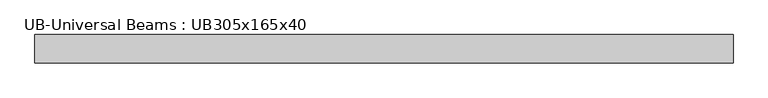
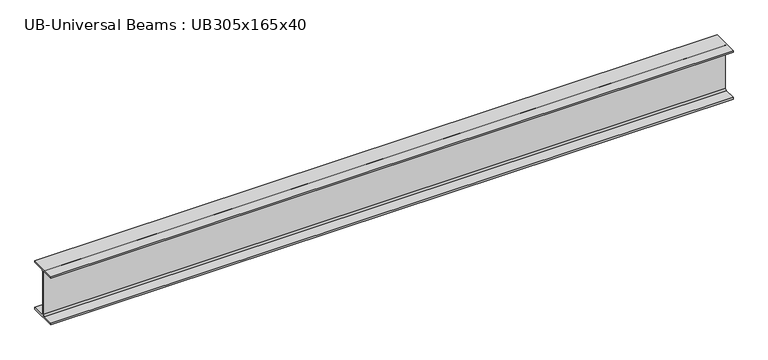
"""IFC4 building model written with IfcOpenShell, lengths in millimetres: beam geometry, UB-Universal Beams : UB305x165x40."""

import ifcopenshell
import ifcopenshell.guid

model = None  # the IFC model being written
_history = None  # IfcOwnerHistory: only IFC2X3 demands one
_inside = {}  # id of a spatial element -> (the spatial element, [elements in it])
_under = {}  # id of a project, library or spatial element -> (it, [spatial elements below it])
_declared = {}  # id of a project -> (the project, [libraries it declares])
_typed = {}  # id of a type object -> (the type object, [elements of that type])
_made_of = {}  # id of a material, layer set ... -> (it, [elements and type objects made of it])


def new_model(schema):
    """Start an empty IFC model of exactly this schema.

    Asked for "IFC4X3", IfcOpenShell would pick the latest addendum, in which some entities
    have other attributes; the version numbers below select the first issue.
    IFC2X3 requires an IfcOwnerHistory on every rooted entity: one is made here for all.
    """
    global model, _history
    if schema == "IFC4X3":
        model = ifcopenshell.file(schema_version=(4, 3, 0, 0))
    else:
        model = ifcopenshell.file(schema=schema)
    _inside.clear()
    _under.clear()
    _declared.clear()
    _typed.clear()
    _made_of.clear()
    _history = None
    if model.schema == "IFC2X3":
        org = make("IfcOrganization", Name="unknown")
        user = make(
            "IfcPersonAndOrganization",
            ThePerson=make("IfcPerson", FamilyName="unknown"),
            TheOrganization=org,
        )
        app = make(
            "IfcApplication",
            ApplicationDeveloper=org,
            Version="unknown",
            ApplicationFullName="unknown",
            ApplicationIdentifier="unknown",
        )
        _history = make(
            "IfcOwnerHistory",
            OwningUser=user,
            OwningApplication=app,
            ChangeAction="ADDED",
            CreationDate=0,
        )
    return model


def make(cls, **values):
    """One entity of the class cls with the attributes given. An attribute that is None is left unset."""
    return model.create_entity(
        cls, **{name: value for name, value in values.items() if value is not None}
    )


def rooted(cls, **values):
    """An entity with a GlobalId (a new one), such as an element, a storey or a relation."""
    return make(cls, GlobalId=ifcopenshell.guid.new(), OwnerHistory=_history, **values)


def si_unit(unit_type, name, prefix=None):
    """IfcSIUnit, for example si_unit("LENGTHUNIT", "METRE", prefix="MILLI")."""
    return make("IfcSIUnit", UnitType=unit_type, Prefix=prefix, Name=name)


def assignment(units):
    """IfcUnitAssignment: the units of a project."""
    return None if units is None else make("IfcUnitAssignment", Units=units)


def point(xyz):
    """IfcCartesianPoint."""
    return None if xyz is None else make("IfcCartesianPoint", Coordinates=xyz)


def direction(xyz):
    """IfcDirection."""
    return None if xyz is None else make("IfcDirection", DirectionRatios=xyz)


def frame(location, z_axis=None, x_axis=None):
    """IfcAxis2Placement3D, a coordinate frame: its origin and axes. An axis left out is left unset."""
    return make(
        "IfcAxis2Placement3D",
        Location=point(location),
        Axis=direction(z_axis),
        RefDirection=direction(x_axis),
    )


def frame_2d(location, x_axis=None):
    """IfcAxis2Placement2D, a coordinate frame in the plane: its origin and x axis."""
    return make(
        "IfcAxis2Placement2D", Location=point(location), RefDirection=direction(x_axis)
    )


def origin():
    """The frame at (0, 0, 0) with its axes left unset."""
    return frame((0.0, 0.0, 0.0))


def place(relative_to, where):
    """IfcLocalPlacement: puts the frame where relative to a parent placement (None: the world)."""
    return make(
        "IfcLocalPlacement", PlacementRelTo=relative_to, RelativePlacement=where
    )


def context(
    kind, dimensions, precision=None, world=None, true_north=None, identifier=None
):
    """IfcGeometricRepresentationContext, for example the 3D "Model" context."""
    return make(
        "IfcGeometricRepresentationContext",
        ContextIdentifier=identifier,
        ContextType=kind,
        CoordinateSpaceDimension=dimensions,
        Precision=precision,
        WorldCoordinateSystem=world,
        TrueNorth=true_north,
    )


def project(units=None, contexts=None):
    """IfcProject with its units and contexts."""
    return rooted(
        "IfcProject",
        Name="project",
        RepresentationContexts=contexts,
        UnitsInContext=assignment(units),
    )


def spatial(cls, under=None, at=None, **own):
    """A site, building, storey or space (cls), placed at a placement, below another one or the project."""
    s = rooted(cls, ObjectPlacement=at, **own)
    if under is not None:
        _under.setdefault(under.id(), (under, []))[1].append(s)
    return s


def polyline(points):
    """IfcPolyline through the points."""
    return make("IfcPolyline", Points=[point(p) for p in points])


def circle_curve(where, radius):
    """IfcCircle in the frame where."""
    return make("IfcCircle", Position=where, Radius=radius)


def trimmed(basis, trim1, trim2, sense, master):
    """IfcTrimmedCurve: the piece of a basis curve between two trims."""
    return make(
        "IfcTrimmedCurve",
        BasisCurve=basis,
        Trim1=trim1,
        Trim2=trim2,
        SenseAgreement=sense,
        MasterRepresentation=master,
    )


def segment(curve, same_sense, transition):
    """IfcCompositeCurveSegment."""
    return make(
        "IfcCompositeCurveSegment",
        Transition=transition,
        SameSense=same_sense,
        ParentCurve=curve,
    )


def composite_curve(segments, self_intersect=None):
    """IfcCompositeCurve: segments joined end to end."""
    return make("IfcCompositeCurve", Segments=segments, SelfIntersect=self_intersect)


def outline(outer, holes=None, kind="AREA"):
    """IfcArbitraryClosedProfileDef: a profile drawn as a closed curve; with holes, ...WithVoids."""
    if holes is None:
        return make("IfcArbitraryClosedProfileDef", ProfileType=kind, OuterCurve=outer)
    return make(
        "IfcArbitraryProfileDefWithVoids",
        ProfileType=kind,
        OuterCurve=outer,
        InnerCurves=holes,
    )


def extrude(swept, where, along, depth):
    """IfcExtrudedAreaSolid: the profile swept, set in the frame where, extruded along a direction by depth."""
    return make(
        "IfcExtrudedAreaSolid",
        SweptArea=swept,
        Position=where,
        ExtrudedDirection=direction(along),
        Depth=depth,
    )


def shape(context_of_items, identifier, shape_type, items):
    """IfcShapeRepresentation: the items that make up one representation, for example the "Body"."""
    return make(
        "IfcShapeRepresentation",
        ContextOfItems=context_of_items,
        RepresentationIdentifier=identifier,
        RepresentationType=shape_type,
        Items=items,
    )


def source(mapping_origin, context_of_items, identifier, shape_type, items):
    """IfcRepresentationMap: a shape defined once, which mapped items show again and again."""
    return make(
        "IfcRepresentationMap",
        MappingOrigin=mapping_origin,
        MappedRepresentation=shape(context_of_items, identifier, shape_type, items),
    )


def transform(
    local_origin,
    x_axis=None,
    y_axis=None,
    z_axis=None,
    scale=None,
    scale2=None,
    scale3=None,
    uniform=True,
):
    """IfcCartesianTransformationOperator3D, or its non-uniform kind. x_axis, y_axis, z_axis: its Axis1, 2, 3."""
    if uniform:
        return make(
            "IfcCartesianTransformationOperator3D",
            Axis1=direction(x_axis),
            Axis2=direction(y_axis),
            LocalOrigin=point(local_origin),
            Scale=scale,
            Axis3=direction(z_axis),
        )
    return make(
        "IfcCartesianTransformationOperator3DnonUniform",
        Axis1=direction(x_axis),
        Axis2=direction(y_axis),
        LocalOrigin=point(local_origin),
        Scale=scale,
        Axis3=direction(z_axis),
        Scale2=scale2,
        Scale3=scale3,
    )


def mapped(mapping_source, mapping_target):
    """IfcMappedItem: shows the shape of a source again, moved by a transform."""
    return make(
        "IfcMappedItem", MappingSource=mapping_source, MappingTarget=mapping_target
    )


def made_of(thing, what):
    """Note that an element or type object is made of a material, layer set ...; save() writes the relation."""
    if what is not None:
        _made_of.setdefault(what.id(), (what, []))[1].append(thing)
    return thing


def element(
    cls,
    number,
    at=None,
    inside=None,
    cuts=None,
    type_object=None,
    material=None,
    context=None,
    identifier="Body",
    shape_type=None,
    held_by="IfcProductDefinitionShape",
    body=None,
    shapes=None,
    **own,
):
    """One element of the class cls, such as IfcWall. Its Tag is "e" and its number.

    at: its placement. inside: the storey or other place that contains it. cuts: it is an
    opening in that element (IfcRelVoidsElement). A single representation is given by context,
    identifier, shape_type and body (its items); several are given by shapes. held_by: the class
    of the entity that holds the representations. save() writes the other relations.
    """
    e = rooted(cls, Tag="e%d" % number, ObjectPlacement=at, **own)
    if body is not None:
        shapes = [shape(context, identifier, shape_type, body)]
    if shapes is not None:
        e.Representation = make(held_by, Representations=shapes)
    if inside is not None:
        _inside.setdefault(inside.id(), (inside, []))[1].append(e)
    if cuts is not None:
        rooted(
            "IfcRelVoidsElement", RelatingBuildingElement=cuts, RelatedOpeningElement=e
        )
    if type_object is not None:
        _typed.setdefault(type_object.id(), (type_object, []))[1].append(e)
    return made_of(e, material)


def aggregate(whole, parts):
    """IfcRelAggregates: a whole, such as a stair, and the parts it consists of."""
    return rooted("IfcRelAggregates", RelatingObject=whole, RelatedObjects=parts)


def save(model, path):
    """Write the relations noted so far, then the file.

    IfcRelAggregates (storeys below a building ...), IfcRelContainedInSpatialStructure (elements
    in a storey), IfcRelDefinesByType, IfcRelAssociatesMaterial and IfcRelDeclares: one each for
    every whole, place, type object, material and project.
    """
    for whole, parts in _under.values():
        aggregate(whole, parts)
    for where, things in _inside.values():
        rooted(
            "IfcRelContainedInSpatialStructure",
            RelatedElements=things,
            RelatingStructure=where,
        )
    for kind, things in _typed.values():
        rooted("IfcRelDefinesByType", RelatedObjects=things, RelatingType=kind)
    for what, things in _made_of.values():
        rooted("IfcRelAssociatesMaterial", RelatedObjects=things, RelatingMaterial=what)
    for by, libraries in _declared.values():
        rooted("IfcRelDeclares", RelatingContext=by, RelatedDefinitions=libraries)
    model.write(path)


def ub_universal_beams_ub305x165x40_7c043438(model_context):
    return source(origin(), model_context, "Body", "SweptSolid", [
        extrude(outline(composite_curve([segment(polyline([(82.5, -141.5), (82.5, -151.7), (-82.5, -151.7), (-82.5, -141.5), (-11.9, -141.5)]), True, "CONTINUOUS"), segment(trimmed(circle_curve(frame_2d((-11.9, -132.6)), 8.9), [point((-11.9, -141.5))], [point((-3.0, -132.6))], True, "CARTESIAN"), True, "CONTINUOUS"), segment(polyline([(-3.0, -132.6), (-3.0, 132.6)]), True, "CONTINUOUS"), segment(trimmed(circle_curve(frame_2d((-11.9, 132.6)), 8.9), [point((-3.0, 132.6))], [point((-11.9, 141.5))], True, "CARTESIAN"), True, "CONTINUOUS"), segment(polyline([(-11.9, 141.5), (-82.5, 141.5), (-82.5, 151.7), (82.5, 151.7), (82.5, 141.5), (11.9, 141.5)]), True, "CONTINUOUS"), segment(trimmed(circle_curve(frame_2d((11.9, 132.6)), 8.9), [point((11.9, 141.5))], [point((3.0, 132.6))], True, "CARTESIAN"), True, "CONTINUOUS"), segment(polyline([(3.0, 132.6), (3.0, -132.6)]), True, "CONTINUOUS"), segment(trimmed(circle_curve(frame_2d((11.9, -132.6)), 8.9), [point((3.0, -132.6))], [point((11.9, -141.5))], True, "CARTESIAN"), True, "CONTINUOUS"), segment(polyline([(11.9, -141.5), (82.5, -141.5)]), True, "CONTINUOUS")], self_intersect=False)), frame((-2057.25, 0.0, 0.0), z_axis=(1.0, 0.0, 0.0), x_axis=(0.0, 1.0, 0.0)), (0.0, 0.0, 1.0), 4060.0),
    ])


if __name__ == "__main__":
    model = new_model("IFC4")
    model_context = context("Model", 3, world=origin())
    ifc_project = project(units=[si_unit("LENGTHUNIT", "METRE", prefix="MILLI")], contexts=[model_context])
    site = spatial("IfcSite", under=ifc_project)
    building = spatial("IfcBuilding", under=site)
    placement = place(None, origin())
    ub_universal_beams_ub305x165x40_shape = ub_universal_beams_ub305x165x40_7c043438(model_context)
    element("IfcBeam", 1, ObjectType="UB-Universal Beams : UB305x165x40", at=placement, inside=building, context=model_context, shape_type="MappedRepresentation", body=[
        mapped(ub_universal_beams_ub305x165x40_shape, transform((0.0, 0.0, 0.0), x_axis=(1.0, 0.0, 0.0), y_axis=(0.0, 1.0, 0.0), z_axis=(0.0, 0.0, 1.0))),
    ])
    save(model, "model.ifc")
